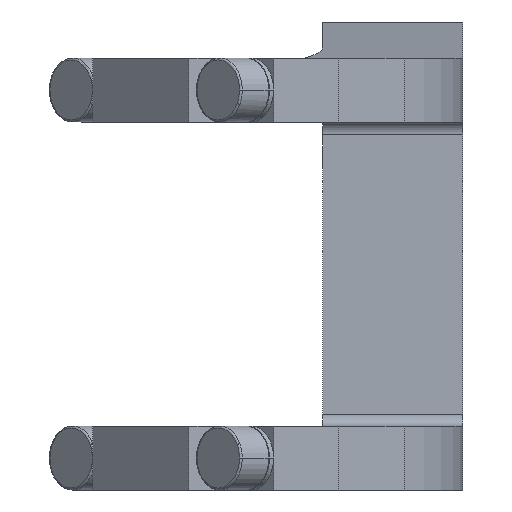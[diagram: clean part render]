
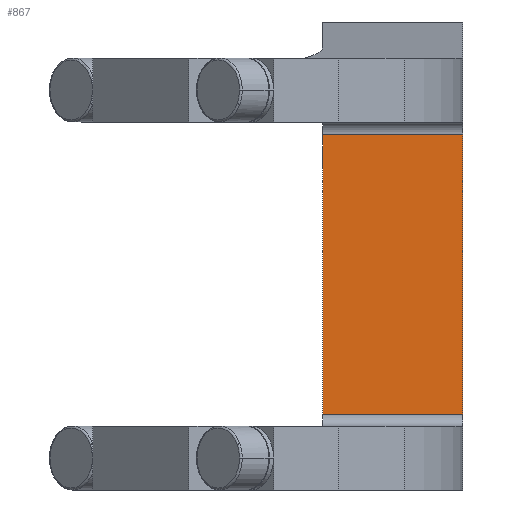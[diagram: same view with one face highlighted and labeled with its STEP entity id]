
A CAD part, front view. The second image highlights one B-rep face of the part: STEP entity #867.
In plain terms, the highlighted planar face has unit normal (0, -1, 0).
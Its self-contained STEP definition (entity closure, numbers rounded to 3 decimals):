
#157=CARTESIAN_POINT('Vertex',(20.,115.,35.)) ;
#160=CARTESIAN_POINT('Line Origine',(0.,115.,35.)) ;
#164=CARTESIAN_POINT('Vertex',(55.,115.,35.)) ;
#219=CARTESIAN_POINT('Line Origine',(55.,115.,0.)) ;
#223=CARTESIAN_POINT('Vertex',(55.,115.,-35.)) ;
#753=CARTESIAN_POINT('Vertex',(20.,115.,-35.)) ;
#756=CARTESIAN_POINT('Line Origine',(20.,115.,0.)) ;
#851=CARTESIAN_POINT('Axis2P3D Location',(55.,115.,35.)) ;
#856=CARTESIAN_POINT('Line Origine',(37.5,115.,-35.)) ;
#161=DIRECTION('Vector Direction',(1.,0.,0.)) ;
#220=DIRECTION('Vector Direction',(0.,0.,-1.)) ;
#757=DIRECTION('Vector Direction',(0.,0.,-1.)) ;
#852=DIRECTION('Axis2P3D Direction',(0.,1.,0.)) ;
#853=DIRECTION('Axis2P3D XDirection',(0.,0.,-1.)) ;
#857=DIRECTION('Vector Direction',(-1.,0.,0.)) ;
#854=AXIS2_PLACEMENT_3D('Plane Axis2P3D',#851,#852,#853) ;
#862=ORIENTED_EDGE('',*,*,#760,.T.) ;
#863=ORIENTED_EDGE('',*,*,#860,.F.) ;
#864=ORIENTED_EDGE('',*,*,#225,.F.) ;
#865=ORIENTED_EDGE('',*,*,#166,.T.) ;
#162=VECTOR('Line Direction',#161,1.) ;
#221=VECTOR('Line Direction',#220,1.) ;
#758=VECTOR('Line Direction',#757,1.) ;
#858=VECTOR('Line Direction',#857,1.) ;
#867=ADVANCED_FACE('Brep With Voids',(#866),#855,.F.) ;
#166=EDGE_CURVE('',#165,#158,#163,.F.) ;
#225=EDGE_CURVE('',#165,#224,#222,.T.) ;
#760=EDGE_CURVE('',#158,#754,#759,.T.) ;
#860=EDGE_CURVE('',#224,#754,#859,.T.) ;
#861=EDGE_LOOP('',(#862,#863,#864,#865)) ;
#866=FACE_OUTER_BOUND('',#861,.T.) ;
#163=LINE('Line',#160,#162) ;
#222=LINE('Line',#219,#221) ;
#759=LINE('Line',#756,#758) ;
#859=LINE('Line',#856,#858) ;
#855=PLANE('Plane',#854) ;
#158=VERTEX_POINT('',#157) ;
#165=VERTEX_POINT('',#164) ;
#224=VERTEX_POINT('',#223) ;
#754=VERTEX_POINT('',#753) ;
